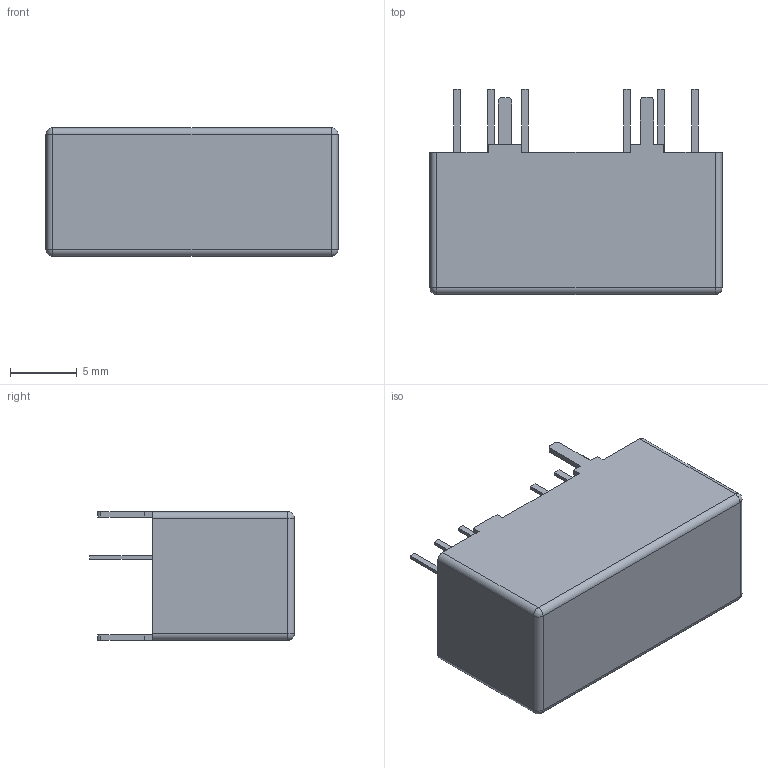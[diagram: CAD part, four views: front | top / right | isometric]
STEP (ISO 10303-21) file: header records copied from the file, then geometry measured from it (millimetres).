
FILE_DESCRIPTION(/* description */ ('Unknown'),/* implementation_level */ '2;1');
FILE_NAME(/* name */ 'ITZ09(S)',/* time_stamp */ '2017-12-01T13:34:19+08:00',/* author */ ('Unknown'),/* organization */ ('Unknown'),/* preprocessor_version */ 'ST-DEVELOPER v16.7',/* originating_system */ 'DEX',/* authorisation */ $);
FILE_SCHEMA (('AUTOMOTIVE_DESIGN {1 0 10303 214 3 1 1}'));
Length unit declared in the file: millimetre
Products named in the file (1): ITZ09(S)
Bounding box: 21.8 x 15.3 x 9.6 mm (x, y, z)
Volume: 2221.5 mm3; surface area: 1136.8 mm2
Topology: 1 solids, 1 shells, 76 faces, 196 edges, 124 vertices
Faces by surface type: plane 60, cylinder 12, sphere 4
Entity records: 2274 total; most frequent: CARTESIAN_POINT 393, ORIENTED_EDGE 384, DIRECTION 370, EDGE_CURVE 192, LINE 168, VECTOR 168, VERTEX_POINT 124, AXIS2_PLACEMENT_3D 101
